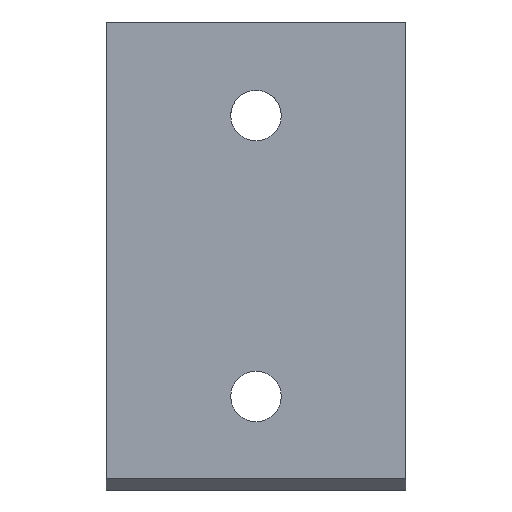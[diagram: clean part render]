
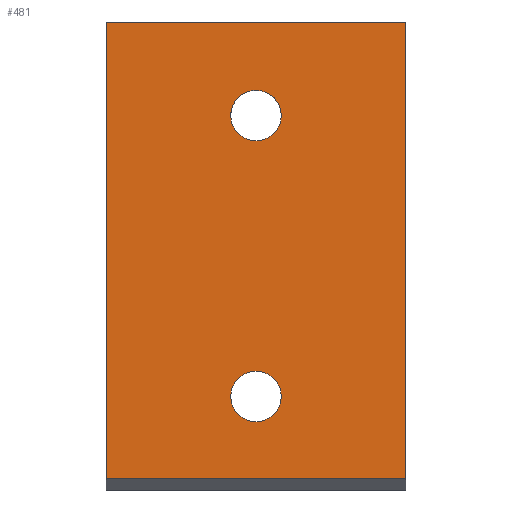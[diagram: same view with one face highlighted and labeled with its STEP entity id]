
A CAD part, front view. The second image highlights one B-rep face of the part: STEP entity #481.
In plain terms, the highlighted planar face has unit normal (0, -1, 0).
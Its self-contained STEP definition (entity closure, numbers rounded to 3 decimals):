
#5 = CARTESIAN_POINT ( 'NONE',  ( 46.75, 0., 100. ) ) ;
#6 = EDGE_CURVE ( 'NONE', #326, #7, #441, .T. ) ;
#7 = VERTEX_POINT ( 'NONE', #179 ) ;
#25 = VERTEX_POINT ( 'NONE', #555 ) ;
#48 = CARTESIAN_POINT ( 'NONE',  ( 40., 0., 25. ) ) ;
#49 = CARTESIAN_POINT ( 'NONE',  ( 46.75, 0., 100. ) ) ;
#53 = CARTESIAN_POINT ( 'NONE',  ( 46.75, 0., 100.884 ) ) ;
#56 = CARTESIAN_POINT ( 'NONE',  ( 33.25, 0., 100. ) ) ;
#58 = DIRECTION ( 'NONE',  ( 1., 0., 0. ) ) ;
#74 = EDGE_CURVE ( 'NONE', #231, #467, #152, .T. ) ;
#77 = VERTEX_POINT ( 'NONE', #566 ) ;
#82 = CARTESIAN_POINT ( 'NONE',  ( 46.574, 0., 101.767 ) ) ;
#85 = CARTESIAN_POINT ( 'NONE',  ( 45.398, 0., 104.148 ) ) ;
#89 = VERTEX_POINT ( 'NONE', #575 ) ;
#94 = CARTESIAN_POINT ( 'NONE',  ( 40.884, 0., 106.75 ) ) ;
#95 = CARTESIAN_POINT ( 'NONE',  ( 35.852, 0., 105.398 ) ) ;
#101 = CARTESIAN_POINT ( 'NONE',  ( 39.116, 0., 106.75 ) ) ;
#110 = CARTESIAN_POINT ( 'NONE',  ( 80., 0., 64. ) ) ;
#118 = AXIS2_PLACEMENT_3D ( 'NONE', #316, #311, #305 ) ;
#142 = ORIENTED_EDGE ( 'NONE', *, *, #6, .F. ) ;
#151 = PLANE ( 'NONE',  #540 ) ;
#152 = B_SPLINE_CURVE_WITH_KNOTS ( 'NONE', 3,
 ( #5, #53, #82, #185, #85, #610, #195, #197, #94, #101, #612, #614, #95, #618, #258, #532, #530, #586 ),
 .UNSPECIFIED., .F., .F.,
 ( 4, 2, 2, 2, 2, 2, 2, 2, 4 ),
 ( 0., 0.125, 0.25, 0.375, 0.5, 0.625, 0.75, 0.875, 1. ),
 .UNSPECIFIED. ) ;
#156 = EDGE_CURVE ( 'NONE', #25, #377, #455, .T. ) ;
#171 = ORIENTED_EDGE ( 'NONE', *, *, #351, .T. ) ;
#172 = CARTESIAN_POINT ( 'NONE',  ( 40., 0., 125. ) ) ;
#173 = VECTOR ( 'NONE', #548, 1000. ) ;
#179 = CARTESIAN_POINT ( 'NONE',  ( 80., 0., 125. ) ) ;
#185 = CARTESIAN_POINT ( 'NONE',  ( 45.898, 0., 103.399 ) ) ;
#193 = CARTESIAN_POINT ( 'NONE',  ( 0., 0., 125. ) ) ;
#195 = CARTESIAN_POINT ( 'NONE',  ( 43.399, 0., 105.898 ) ) ;
#197 = CARTESIAN_POINT ( 'NONE',  ( 41.767, 0., 106.574 ) ) ;
#209 = EDGE_CURVE ( 'NONE', #467, #231, #556, .T. ) ;
#218 = AXIS2_PLACEMENT_3D ( 'NONE', #279, #496, #523 ) ;
#223 = ORIENTED_EDGE ( 'NONE', *, *, #565, .F. ) ;
#231 = VERTEX_POINT ( 'NONE', #49 ) ;
#233 = LINE ( 'NONE', #506, #173 ) ;
#240 = DIRECTION ( 'NONE',  ( 1., 0., 0. ) ) ;
#258 = CARTESIAN_POINT ( 'NONE',  ( 34.102, 0., 103.399 ) ) ;
#272 = EDGE_LOOP ( 'NONE', ( #223, #142, #171, #471 ) ) ;
#279 = CARTESIAN_POINT ( 'NONE',  ( 40., 0., 25. ) ) ;
#297 = ORIENTED_EDGE ( 'NONE', *, *, #209, .F. ) ;
#301 = CIRCLE ( 'NONE', #218, 6.75 ) ;
#305 = DIRECTION ( 'NONE',  ( 1., 0., 0. ) ) ;
#311 = DIRECTION ( 'NONE',  ( 0., -1., 0. ) ) ;
#312 = CARTESIAN_POINT ( 'NONE',  ( 0., 0., 125. ) ) ;
#316 = CARTESIAN_POINT ( 'NONE',  ( 40., 0., 100. ) ) ;
#326 = VERTEX_POINT ( 'NONE', #312 ) ;
#327 = DIRECTION ( 'NONE',  ( 0., 0., -1. ) ) ;
#328 = FACE_BOUND ( 'NONE', #450, .T. ) ;
#333 = VECTOR ( 'NONE', #511, 1000. ) ;
#336 = FACE_OUTER_BOUND ( 'NONE', #272, .T. ) ;
#339 = FACE_BOUND ( 'NONE', #619, .T. ) ;
#351 = EDGE_CURVE ( 'NONE', #326, #25, #233, .T. ) ;
#377 = VERTEX_POINT ( 'NONE', #504 ) ;
#385 = ORIENTED_EDGE ( 'NONE', *, *, #596, .F. ) ;
#388 = DIRECTION ( 'NONE',  ( 0., -1., 0. ) ) ;
#389 = ORIENTED_EDGE ( 'NONE', *, *, #391, .F. ) ;
#391 = EDGE_CURVE ( 'NONE', #77, #89, #301, .T. ) ;
#402 = ORIENTED_EDGE ( 'NONE', *, *, #74, .F. ) ;
#411 = DIRECTION ( 'NONE',  ( 0., 0., -1. ) ) ;
#427 = VECTOR ( 'NONE', #327, 1000. ) ;
#433 = LINE ( 'NONE', #110, #427 ) ;
#441 = LINE ( 'NONE', #172, #333 ) ;
#443 = AXIS2_PLACEMENT_3D ( 'NONE', #48, #490, #58 ) ;
#450 = EDGE_LOOP ( 'NONE', ( #385, #389 ) ) ;
#455 = LINE ( 'NONE', #478, #519 ) ;
#467 = VERTEX_POINT ( 'NONE', #56 ) ;
#471 = ORIENTED_EDGE ( 'NONE', *, *, #156, .T. ) ;
#473 = CIRCLE ( 'NONE', #443, 6.75 ) ;
#478 = CARTESIAN_POINT ( 'NONE',  ( 40., 0., 3. ) ) ;
#481 = ADVANCED_FACE ( 'NONE', ( #336, #339, #328 ), #151, .T. ) ;
#490 = DIRECTION ( 'NONE',  ( 0., -1., 0. ) ) ;
#496 = DIRECTION ( 'NONE',  ( 0., -1., 0. ) ) ;
#504 = CARTESIAN_POINT ( 'NONE',  ( 80., 0., 3. ) ) ;
#506 = CARTESIAN_POINT ( 'NONE',  ( 0., 0., 64. ) ) ;
#511 = DIRECTION ( 'NONE',  ( 1., 0., 0. ) ) ;
#519 = VECTOR ( 'NONE', #240, 1000. ) ;
#523 = DIRECTION ( 'NONE',  ( 1., 0., 0. ) ) ;
#530 = CARTESIAN_POINT ( 'NONE',  ( 33.25, 0., 100.884 ) ) ;
#532 = CARTESIAN_POINT ( 'NONE',  ( 33.426, 0., 101.767 ) ) ;
#540 = AXIS2_PLACEMENT_3D ( 'NONE', #193, #388, #411 ) ;
#548 = DIRECTION ( 'NONE',  ( 0., 0., -1. ) ) ;
#555 = CARTESIAN_POINT ( 'NONE',  ( 0., 0., 3. ) ) ;
#556 = CIRCLE ( 'NONE', #118, 6.75 ) ;
#565 = EDGE_CURVE ( 'NONE', #7, #377, #433, .T. ) ;
#566 = CARTESIAN_POINT ( 'NONE',  ( 46.75, 0., 25. ) ) ;
#575 = CARTESIAN_POINT ( 'NONE',  ( 33.25, 0., 25. ) ) ;
#586 = CARTESIAN_POINT ( 'NONE',  ( 33.25, 0., 100. ) ) ;
#596 = EDGE_CURVE ( 'NONE', #89, #77, #473, .T. ) ;
#610 = CARTESIAN_POINT ( 'NONE',  ( 44.148, 0., 105.398 ) ) ;
#612 = CARTESIAN_POINT ( 'NONE',  ( 38.233, 0., 106.574 ) ) ;
#614 = CARTESIAN_POINT ( 'NONE',  ( 36.601, 0., 105.898 ) ) ;
#618 = CARTESIAN_POINT ( 'NONE',  ( 34.602, 0., 104.148 ) ) ;
#619 = EDGE_LOOP ( 'NONE', ( #297, #402 ) ) ;
